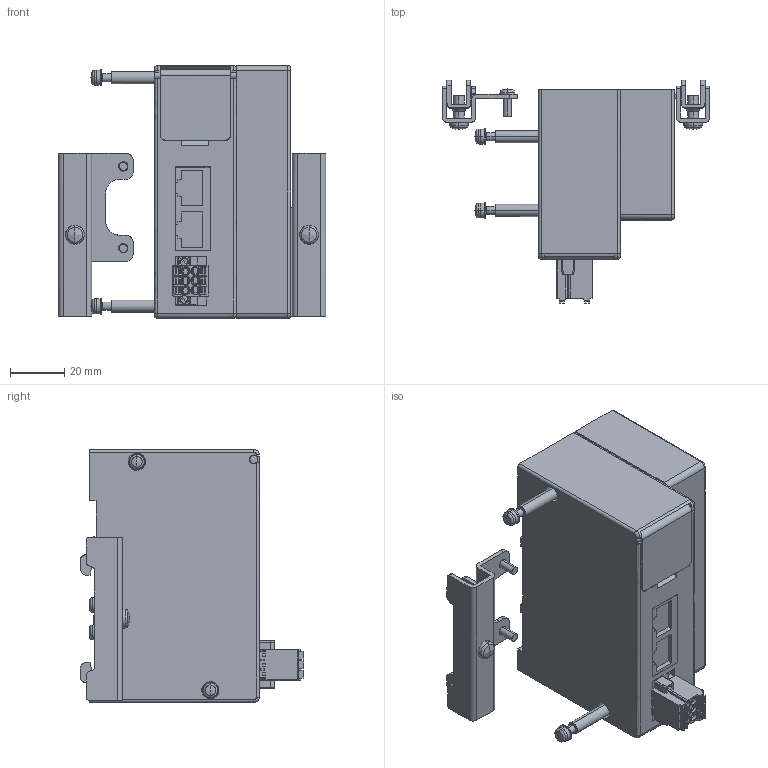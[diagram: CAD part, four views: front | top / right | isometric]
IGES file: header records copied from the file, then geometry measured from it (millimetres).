
Start section: ------------------------------------------------------------------------
Bounding box: 98.5 x 82.1 x 93 mm (x, y, z)
Volume: 264288.7 mm3; surface area: 45676.6 mm2
Topology: 3 solids, 3 shells, 971 faces, 2541 edges, 1629 vertices
Faces by surface type: bspline 971
